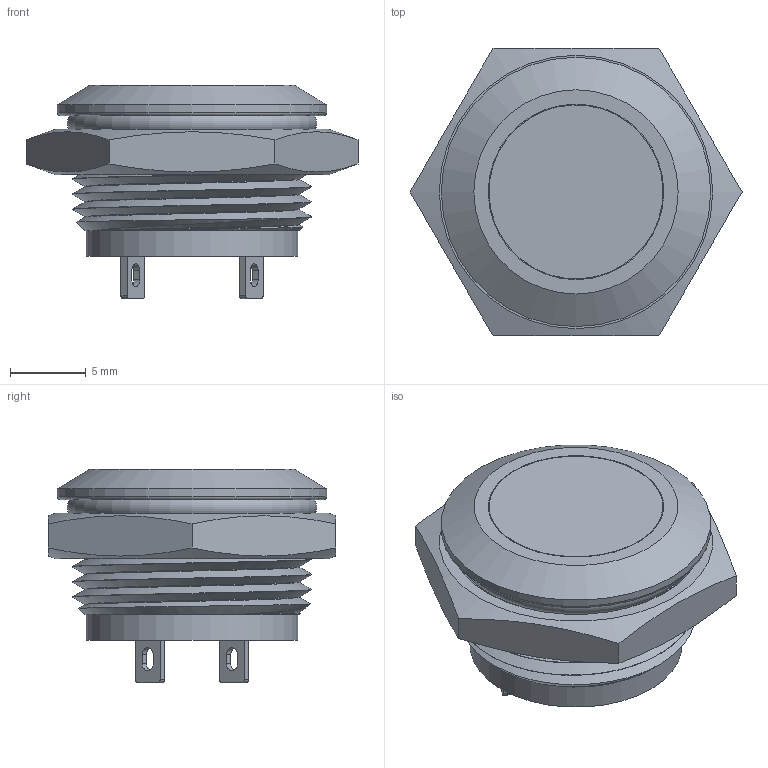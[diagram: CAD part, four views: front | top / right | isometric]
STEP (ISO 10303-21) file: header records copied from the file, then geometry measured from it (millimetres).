
FILE_DESCRIPTION(/* description */ (''),/* implementation_level */ '2;1');
FILE_NAME(/* name */ 'EJ16-211PM.stp',/* time_stamp */ '2019-11-08T13:52:43+08:00',/* author */ (''),/* organization */ (''),/* preprocessor_version */ 'ST-DEVELOPER v11',/* originating_system */ 'SIEMENS UGS NX 6.0',/* authorisation */ '');
FILE_SCHEMA (('CONFIG_CONTROL_DESIGN'));
Length unit declared in the file: millimetre
Products named in the file (8): JH8.683.028; JH7.303.007; JH7.740.176; JH7.810.265; JH7.370.466; JH8.382.295; JH8.382.296; EJ16-211PM
Assembly tree (8 placements, depth 2):
  EJ16-211PM
    JH8.382.296
    JH8.382.295
    JH7.370.466
    JH7.810.265
    JH7.740.176  x2
    JH7.303.007
    JH8.683.028
Bounding box: 21.94 x 19 x 14.1 mm (x, y, z)
Volume: 1183 mm3; surface area: 3733.1 mm2
Topology: 7 solids, 8 shells, 228 faces, 575 edges, 379 vertices
Faces by surface type: plane 158, cylinder 42, cone 10, extrusion 8, torus 6, bspline 4
Full cylindrical faces by diameter (mm): 2.2 x2, 2.6 x1, 8.9 x1, 9 x1, 11.5 x2, 11.6 x1, 12.4 x1, 13.2 x1, 13.4 x1, 14 x1, 15.8 x1, 17.8 x1
Entity records: 8163 total; most frequent: CARTESIAN_POINT 2679, ORIENTED_EDGE 922, DIRECTION 881, EDGE_CURVE 461, VERTEX_POINT 315, AXIS2_PLACEMENT_3D 295, VECTOR 291, LINE 283
